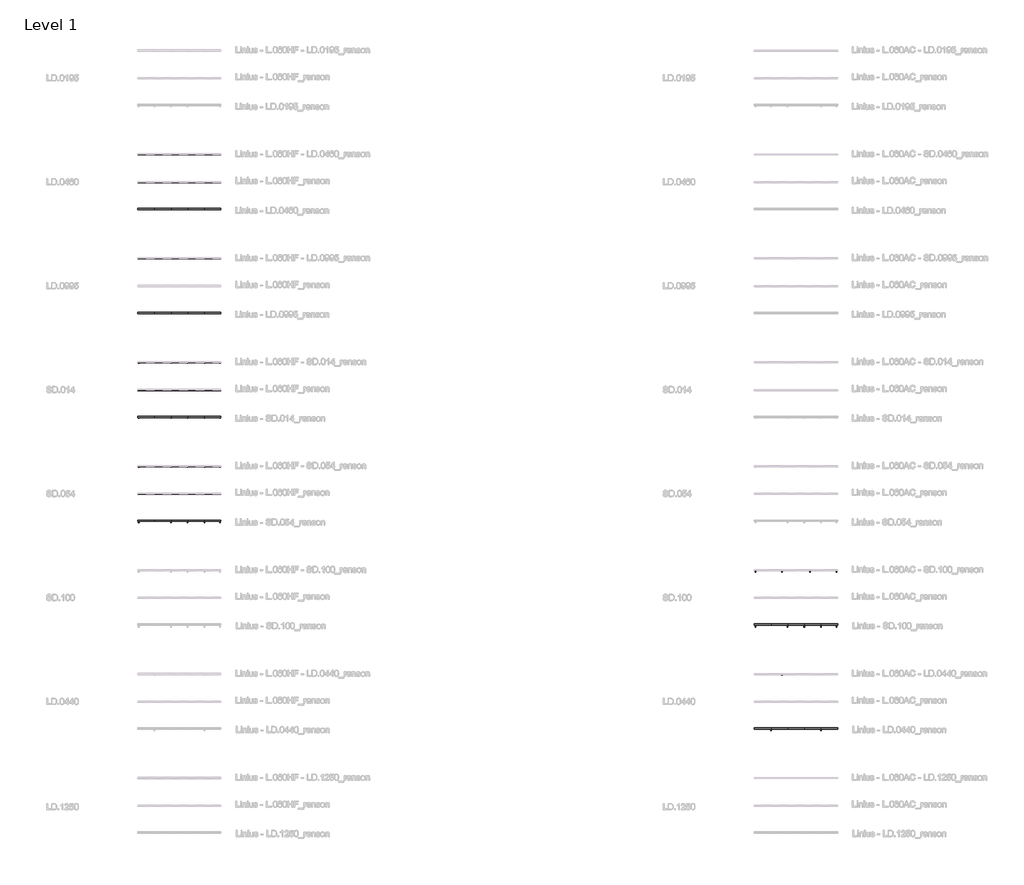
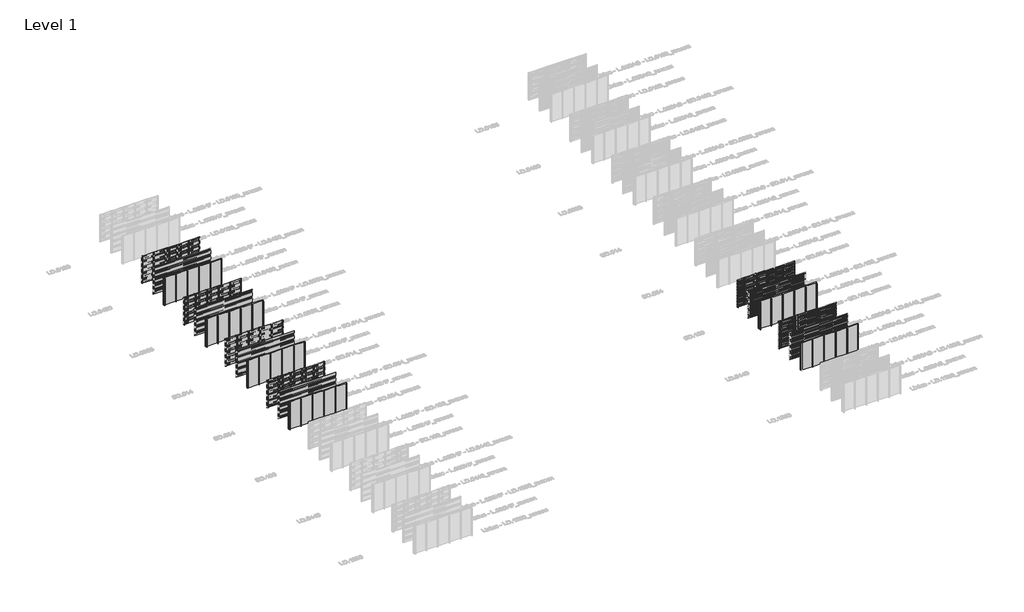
# One storey, part 2 of 153: 66 members, 62 plates.
"""IFC4 building model written with IfcOpenShell, lengths in millimetres."""

from ifc_helpers import new_model, si_unit, origin, origin_with_axes, place, context, project, spatial, polyline, outline, extrude, transform, mapped, element, save
from components import rectangular_mullion_21e3ddae, rectangular_mullion_fb497acc, rectangular_mullion_2c867e25, rectangular_mullion_c2c7736a, rectangular_mullion_35b0a916, rectangular_mullion_bd250e2e, rectangular_mullion_7b49c8f1, rectangular_mullion_5b30f3fd, rectangular_mullion_5e0e8e0a, rectangular_mullion_3facce28, rectangular_mullion_2b84ad7e, rectangular_mullion_0fd695e7, rectangular_mullion_6cf2c509, rectangular_mullion_9b796d85, rectangular_mullion_dfb17e98, rectangular_mullion_8b77bd57, rectangular_mullion_6132f1f1, rectangular_mullion_8f153c19, empty_system_panel_empty_5195cd12

model = new_model("IFC4")

# Units and contexts
model_context = context("Model", 3, world=origin())
ifc_project = project(units=[si_unit("LENGTHUNIT", "METRE", prefix="MILLI")], contexts=[model_context])

# Site, building, storey
site = spatial("IfcSite", under=ifc_project)
building = spatial("IfcBuilding", under=site)
storey = spatial("IfcBuildingStorey", under=building, Name="Level 1", Elevation=0.0)

# Members
placement = place(None, origin())
rectangular_mullion_shape = rectangular_mullion_21e3ddae(model_context)
element("IfcMember", 1, ObjectType="Rectangular Mullion : LD.0460_renson", at=placement, inside=storey, context=model_context, shape_type="MappedRepresentation", body=[
    mapped(rectangular_mullion_shape, transform((5266.6208095, 58981.0540136, 0.0), x_axis=(-1.0, 0.0, 0.0), y_axis=(0.0, 1.0, 0.0), z_axis=(0.0, 0.0, -1.0))),
])
element("IfcMember", 2, ObjectType="Rectangular Mullion : LD.0460_renson", at=placement, inside=storey, context=model_context, shape_type="MappedRepresentation", body=[
    mapped(rectangular_mullion_shape, transform((4066.6208096, 58981.0540136, 0.0), x_axis=(-1.0, 0.0, 0.0), y_axis=(0.0, 1.0, 0.0), z_axis=(0.0, 0.0, -1.0))),
])
element("IfcMember", 3, ObjectType="Rectangular Mullion : LD.0460_renson", at=placement, inside=storey, context=model_context, shape_type="MappedRepresentation", body=[
    mapped(rectangular_mullion_shape, transform((2866.6208097, 58981.0540136, 0.0), x_axis=(-1.0, 0.0, 0.0), y_axis=(0.0, 1.0, 0.0), z_axis=(0.0, 0.0, -1.0))),
])
element("IfcMember", 4, ObjectType="Rectangular Mullion : LD.0460_renson", at=placement, inside=storey, context=model_context, shape_type="MappedRepresentation", body=[
    mapped(rectangular_mullion_shape, transform((1666.6208099, 58981.0540136, 0.0), x_axis=(-1.0, 0.0, 0.0), y_axis=(0.0, 1.0, 0.0), z_axis=(0.0, 0.0, -1.0))),
])
element("IfcMember", 5, ObjectType="Rectangular Mullion : LD.0460_renson", at=placement, inside=storey, context=model_context, shape_type="MappedRepresentation", body=[
    mapped(rectangular_mullion_shape, transform((5266.6208095, 54981.0540136, 0.0), x_axis=(-1.0, 0.0, 0.0), y_axis=(0.0, 1.0, 0.0), z_axis=(0.0, 0.0, -1.0))),
])
element("IfcMember", 6, ObjectType="Rectangular Mullion : LD.0460_renson", at=placement, inside=storey, context=model_context, shape_type="MappedRepresentation", body=[
    mapped(rectangular_mullion_shape, transform((4066.6208096, 54981.0540136, 0.0), x_axis=(-1.0, 0.0, 0.0), y_axis=(0.0, 1.0, 0.0), z_axis=(0.0, 0.0, -1.0))),
])
element("IfcMember", 7, ObjectType="Rectangular Mullion : LD.0460_renson", at=placement, inside=storey, context=model_context, shape_type="MappedRepresentation", body=[
    mapped(rectangular_mullion_shape, transform((2866.6208097, 54981.0540136, 0.0), x_axis=(-1.0, 0.0, 0.0), y_axis=(0.0, 1.0, 0.0), z_axis=(0.0, 0.0, -1.0))),
])
element("IfcMember", 8, ObjectType="Rectangular Mullion : LD.0460_renson", at=placement, inside=storey, context=model_context, shape_type="MappedRepresentation", body=[
    mapped(rectangular_mullion_shape, transform((1666.6208099, 54981.0540136, 0.0), x_axis=(-1.0, 0.0, 0.0), y_axis=(0.0, 1.0, 0.0), z_axis=(0.0, 0.0, -1.0))),
])
rectangular_mullion_2_shape = rectangular_mullion_fb497acc(model_context)
element("IfcMember", 9, ObjectType="Rectangular Mullion : LD.0995_renson", at=placement, inside=storey, context=model_context, shape_type="MappedRepresentation", body=[
    mapped(rectangular_mullion_2_shape, transform((5266.6208095, 51481.0540136, 0.0), x_axis=(-1.0, 0.0, 0.0), y_axis=(0.0, 1.0, 0.0), z_axis=(0.0, 0.0, -1.0))),
])
element("IfcMember", 10, ObjectType="Rectangular Mullion : LD.0995_renson", at=placement, inside=storey, context=model_context, shape_type="MappedRepresentation", body=[
    mapped(rectangular_mullion_2_shape, transform((4066.6208096, 51481.0540136, 0.0), x_axis=(-1.0, 0.0, 0.0), y_axis=(0.0, 1.0, 0.0), z_axis=(0.0, 0.0, -1.0))),
])
element("IfcMember", 11, ObjectType="Rectangular Mullion : LD.0995_renson", at=placement, inside=storey, context=model_context, shape_type="MappedRepresentation", body=[
    mapped(rectangular_mullion_2_shape, transform((2866.6208097, 51481.0540136, 0.0), x_axis=(-1.0, 0.0, 0.0), y_axis=(0.0, 1.0, 0.0), z_axis=(0.0, 0.0, -1.0))),
])
element("IfcMember", 12, ObjectType="Rectangular Mullion : LD.0995_renson", at=placement, inside=storey, context=model_context, shape_type="MappedRepresentation", body=[
    mapped(rectangular_mullion_2_shape, transform((1666.6208099, 51481.0540136, 0.0), x_axis=(-1.0, 0.0, 0.0), y_axis=(0.0, 1.0, 0.0), z_axis=(0.0, 0.0, -1.0))),
])
element("IfcMember", 13, ObjectType="Rectangular Mullion : LD.0995_renson", at=placement, inside=storey, context=model_context, shape_type="MappedRepresentation", body=[
    mapped(rectangular_mullion_2_shape, transform((5266.6208095, 47481.0540136, 0.0), x_axis=(-1.0, 0.0, 0.0), y_axis=(0.0, 1.0, 0.0), z_axis=(0.0, 0.0, -1.0))),
])
element("IfcMember", 14, ObjectType="Rectangular Mullion : LD.0995_renson", at=placement, inside=storey, context=model_context, shape_type="MappedRepresentation", body=[
    mapped(rectangular_mullion_2_shape, transform((4066.6208096, 47481.0540136, 0.0), x_axis=(-1.0, 0.0, 0.0), y_axis=(0.0, 1.0, 0.0), z_axis=(0.0, 0.0, -1.0))),
])
element("IfcMember", 15, ObjectType="Rectangular Mullion : LD.0995_renson", at=placement, inside=storey, context=model_context, shape_type="MappedRepresentation", body=[
    mapped(rectangular_mullion_2_shape, transform((2866.6208097, 47481.0540136, 0.0), x_axis=(-1.0, 0.0, 0.0), y_axis=(0.0, 1.0, 0.0), z_axis=(0.0, 0.0, -1.0))),
])
element("IfcMember", 16, ObjectType="Rectangular Mullion : LD.0995_renson", at=placement, inside=storey, context=model_context, shape_type="MappedRepresentation", body=[
    mapped(rectangular_mullion_2_shape, transform((1666.6208099, 47481.0540136, 0.0), x_axis=(-1.0, 0.0, 0.0), y_axis=(0.0, 1.0, 0.0), z_axis=(0.0, 0.0, -1.0))),
])
rectangular_mullion_3_shape = rectangular_mullion_2c867e25(model_context)
element("IfcMember", 17, ObjectType="Rectangular Mullion : LD.0440_renson", at=placement, inside=storey, context=model_context, shape_type="MappedRepresentation", body=[
    mapped(rectangular_mullion_3_shape, transform((48966.6208096, 21483.0540136, 0.0), x_axis=(-1.0, 0.0, 0.0), y_axis=(0.0, 1.0, 0.0), z_axis=(0.0, 0.0, -1.0))),
])
element("IfcMember", 18, ObjectType="Rectangular Mullion : LD.0440_renson", at=placement, inside=storey, context=model_context, shape_type="MappedRepresentation", body=[
    mapped(rectangular_mullion_3_shape, transform((46966.6208098, 21483.0540136, 0.0), x_axis=(-1.0, 0.0, 0.0), y_axis=(0.0, 1.0, 0.0), z_axis=(0.0, 0.0, -1.0))),
])
element("IfcMember", 19, ObjectType="Rectangular Mullion : LD.0440_renson", at=placement, inside=storey, context=model_context, shape_type="MappedRepresentation", body=[
    mapped(rectangular_mullion_3_shape, transform((47366.6208097, 17483.0540136, 0.0), x_axis=(-1.0, 0.0, 0.0), y_axis=(0.0, 1.0, 0.0), z_axis=(0.0, 0.0, -1.0))),
])
element("IfcMember", 20, ObjectType="Rectangular Mullion : LD.0440_renson", at=placement, inside=storey, context=model_context, shape_type="MappedRepresentation", body=[
    mapped(rectangular_mullion_3_shape, transform((46166.6208099, 17483.0540136, 0.0), x_axis=(-1.0, 0.0, 0.0), y_axis=(0.0, 1.0, 0.0), z_axis=(0.0, 0.0, -1.0))),
])
element("IfcMember", 21, ObjectType="Rectangular Mullion : LD.0440_renson", at=placement, inside=storey, context=model_context, shape_type="MappedRepresentation", body=[
    mapped(rectangular_mullion_3_shape, transform((48566.6208096, 17483.0540136, 0.0), x_axis=(-1.0, 0.0, 0.0), y_axis=(0.0, 1.0, 0.0), z_axis=(0.0, 0.0, -1.0))),
])
element("IfcMember", 22, ObjectType="Rectangular Mullion : LD.0440_renson", at=placement, inside=storey, context=model_context, shape_type="MappedRepresentation", body=[
    mapped(rectangular_mullion_3_shape, transform((49766.6208095, 17483.0540136, 0.0), x_axis=(-1.0, 0.0, 0.0), y_axis=(0.0, 1.0, 0.0), z_axis=(0.0, 0.0, -1.0))),
])
rectangular_mullion_4_shape = rectangular_mullion_c2c7736a(model_context)
element("IfcMember", 23, ObjectType="Rectangular Mullion : LD.0460 - left_renson", at=placement, inside=storey, context=model_context, shape_type="MappedRepresentation", body=[
    mapped(rectangular_mullion_4_shape, transform((466.6208097, 58981.0540136, 0.0), x_axis=(-1.0, 0.0, 0.0), y_axis=(0.0, 1.0, 0.0), z_axis=(0.0, 0.0, -1.0))),
])
element("IfcMember", 24, ObjectType="Rectangular Mullion : LD.0460 - left_renson", at=placement, inside=storey, context=model_context, shape_type="MappedRepresentation", body=[
    mapped(rectangular_mullion_4_shape, transform((466.6208097, 54981.0540136, 0.0), x_axis=(-1.0, 0.0, 0.0), y_axis=(0.0, 1.0, 0.0), z_axis=(0.0, 0.0, -1.0))),
])
rectangular_mullion_5_shape = rectangular_mullion_35b0a916(model_context)
element("IfcMember", 25, ObjectType="Rectangular Mullion : LD.0460 - right_renson", at=placement, inside=storey, context=model_context, shape_type="MappedRepresentation", body=[
    mapped(rectangular_mullion_5_shape, transform((6466.6208097, 54981.0540136, 3000.0), x_axis=(1.0, 0.0, 0.0), y_axis=(0.0, 1.0, 0.0), z_axis=(0.0, 0.0, 1.0))),
])
rectangular_mullion_6_shape = rectangular_mullion_bd250e2e(model_context)
element("IfcMember", 26, ObjectType="Rectangular Mullion : LD.0995 - left_renson", at=placement, inside=storey, context=model_context, shape_type="MappedRepresentation", body=[
    mapped(rectangular_mullion_6_shape, transform((466.6208097, 51481.0540136, 0.0), x_axis=(-1.0, 0.0, 0.0), y_axis=(0.0, 1.0, 0.0), z_axis=(0.0, 0.0, -1.0))),
])
element("IfcMember", 27, ObjectType="Rectangular Mullion : LD.0995 - left_renson", at=placement, inside=storey, context=model_context, shape_type="MappedRepresentation", body=[
    mapped(rectangular_mullion_6_shape, transform((466.6208097, 47481.0540136, 0.0), x_axis=(-1.0, 0.0, 0.0), y_axis=(0.0, 1.0, 0.0), z_axis=(0.0, 0.0, -1.0))),
])
rectangular_mullion_7_shape = rectangular_mullion_7b49c8f1(model_context)
element("IfcMember", 28, ObjectType="Rectangular Mullion : LD.0995 - right_renson", at=placement, inside=storey, context=model_context, shape_type="MappedRepresentation", body=[
    mapped(rectangular_mullion_7_shape, transform((6466.6208097, 51481.0540136, 3000.0), x_axis=(1.0, 0.0, 0.0), y_axis=(0.0, 1.0, 0.0), z_axis=(0.0, 0.0, 1.0))),
])
element("IfcMember", 29, ObjectType="Rectangular Mullion : LD.0995 - right_renson", at=placement, inside=storey, context=model_context, shape_type="MappedRepresentation", body=[
    mapped(rectangular_mullion_7_shape, transform((6466.6208097, 47481.0540136, 3000.0), x_axis=(1.0, 0.0, 0.0), y_axis=(0.0, 1.0, 0.0), z_axis=(0.0, 0.0, 1.0))),
])
rectangular_mullion_8_shape = rectangular_mullion_5b30f3fd(model_context)
element("IfcMember", 30, ObjectType="Rectangular Mullion : LD.0440 - left_renson", at=placement, inside=storey, context=model_context, shape_type="MappedRepresentation", body=[
    mapped(rectangular_mullion_8_shape, transform((44966.6208097, 21483.0540136, 0.0), x_axis=(-1.0, 0.0, 0.0), y_axis=(0.0, 1.0, 0.0), z_axis=(0.0, 0.0, -1.0))),
])
rectangular_mullion_9_shape = rectangular_mullion_5e0e8e0a(model_context)
element("IfcMember", 31, ObjectType="Rectangular Mullion : LD.0440 - right_renson", at=placement, inside=storey, context=model_context, shape_type="MappedRepresentation", body=[
    mapped(rectangular_mullion_9_shape, transform((50966.6208097, 21483.0540136, 3000.0), x_axis=(1.0, 0.0, 0.0), y_axis=(0.0, 1.0, 0.0), z_axis=(0.0, 0.0, 1.0))),
])
element("IfcMember", 32, ObjectType="Rectangular Mullion : LD.0440 - right_renson", at=placement, inside=storey, context=model_context, shape_type="MappedRepresentation", body=[
    mapped(rectangular_mullion_9_shape, transform((50966.6208097, 17483.0540136, 3000.0), x_axis=(1.0, 0.0, 0.0), y_axis=(0.0, 1.0, 0.0), z_axis=(0.0, 0.0, 1.0))),
])
rectangular_mullion_10_shape = rectangular_mullion_3facce28(model_context)
element("IfcMember", 33, ObjectType="Rectangular Mullion : SD.014_renson", at=placement, inside=storey, context=model_context, shape_type="MappedRepresentation", body=[
    mapped(rectangular_mullion_10_shape, transform((5266.6208095, 43981.0540136, 0.0), x_axis=(-1.0, 0.0, 0.0), y_axis=(0.0, 1.0, 0.0), z_axis=(0.0, 0.0, -1.0))),
])
element("IfcMember", 34, ObjectType="Rectangular Mullion : SD.014_renson", at=placement, inside=storey, context=model_context, shape_type="MappedRepresentation", body=[
    mapped(rectangular_mullion_10_shape, transform((4066.6208096, 43981.0540136, 0.0), x_axis=(-1.0, 0.0, 0.0), y_axis=(0.0, 1.0, 0.0), z_axis=(0.0, 0.0, -1.0))),
])
element("IfcMember", 35, ObjectType="Rectangular Mullion : SD.014_renson", at=placement, inside=storey, context=model_context, shape_type="MappedRepresentation", body=[
    mapped(rectangular_mullion_10_shape, transform((2866.6208097, 43981.0540136, 0.0), x_axis=(-1.0, 0.0, 0.0), y_axis=(0.0, 1.0, 0.0), z_axis=(0.0, 0.0, -1.0))),
])
element("IfcMember", 36, ObjectType="Rectangular Mullion : SD.014_renson", at=placement, inside=storey, context=model_context, shape_type="MappedRepresentation", body=[
    mapped(rectangular_mullion_10_shape, transform((1666.6208099, 43981.0540136, 0.0), x_axis=(-1.0, 0.0, 0.0), y_axis=(0.0, 1.0, 0.0), z_axis=(0.0, 0.0, -1.0))),
])
element("IfcMember", 37, ObjectType="Rectangular Mullion : SD.014_renson", at=placement, inside=storey, context=model_context, shape_type="MappedRepresentation", body=[
    mapped(rectangular_mullion_10_shape, transform((5266.6208095, 39981.0540136, 0.0), x_axis=(-1.0, 0.0, 0.0), y_axis=(0.0, 1.0, 0.0), z_axis=(0.0, 0.0, -1.0))),
])
element("IfcMember", 38, ObjectType="Rectangular Mullion : SD.014_renson", at=placement, inside=storey, context=model_context, shape_type="MappedRepresentation", body=[
    mapped(rectangular_mullion_10_shape, transform((4066.6208096, 39981.0540136, 0.0), x_axis=(-1.0, 0.0, 0.0), y_axis=(0.0, 1.0, 0.0), z_axis=(0.0, 0.0, -1.0))),
])
element("IfcMember", 39, ObjectType="Rectangular Mullion : SD.014_renson", at=placement, inside=storey, context=model_context, shape_type="MappedRepresentation", body=[
    mapped(rectangular_mullion_10_shape, transform((2866.6208097, 39981.0540136, 0.0), x_axis=(-1.0, 0.0, 0.0), y_axis=(0.0, 1.0, 0.0), z_axis=(0.0, 0.0, -1.0))),
])
element("IfcMember", 40, ObjectType="Rectangular Mullion : SD.014_renson", at=placement, inside=storey, context=model_context, shape_type="MappedRepresentation", body=[
    mapped(rectangular_mullion_10_shape, transform((1666.6208099, 39981.0540136, 0.0), x_axis=(-1.0, 0.0, 0.0), y_axis=(0.0, 1.0, 0.0), z_axis=(0.0, 0.0, -1.0))),
])
rectangular_mullion_11_shape = rectangular_mullion_2b84ad7e(model_context)
element("IfcMember", 41, ObjectType="Rectangular Mullion : SD.014 - left_renson", at=placement, inside=storey, context=model_context, shape_type="MappedRepresentation", body=[
    mapped(rectangular_mullion_11_shape, transform((466.6208097, 43981.0540136, 0.0), x_axis=(-1.0, 0.0, 0.0), y_axis=(0.0, 1.0, 0.0), z_axis=(0.0, 0.0, -1.0))),
])
element("IfcMember", 42, ObjectType="Rectangular Mullion : SD.014 - left_renson", at=placement, inside=storey, context=model_context, shape_type="MappedRepresentation", body=[
    mapped(rectangular_mullion_11_shape, transform((466.6208097, 39981.0540136, 0.0), x_axis=(-1.0, 0.0, 0.0), y_axis=(0.0, 1.0, 0.0), z_axis=(0.0, 0.0, -1.0))),
])
rectangular_mullion_12_shape = rectangular_mullion_0fd695e7(model_context)
element("IfcMember", 43, ObjectType="Rectangular Mullion : SD.014 - right_renson", at=placement, inside=storey, context=model_context, shape_type="MappedRepresentation", body=[
    mapped(rectangular_mullion_12_shape, transform((6466.6208097, 43981.0540136, 3000.0), x_axis=(1.0, 0.0, 0.0), y_axis=(0.0, 1.0, 0.0), z_axis=(0.0, 0.0, 1.0))),
])
element("IfcMember", 44, ObjectType="Rectangular Mullion : SD.014 - right_renson", at=placement, inside=storey, context=model_context, shape_type="MappedRepresentation", body=[
    mapped(rectangular_mullion_12_shape, transform((6466.6208097, 39981.0540136, 3000.0), x_axis=(1.0, 0.0, 0.0), y_axis=(0.0, 1.0, 0.0), z_axis=(0.0, 0.0, 1.0))),
])
rectangular_mullion_13_shape = rectangular_mullion_6cf2c509(model_context)
element("IfcMember", 45, ObjectType="Rectangular Mullion : SD.054_renson", at=placement, inside=storey, context=model_context, shape_type="MappedRepresentation", body=[
    mapped(rectangular_mullion_13_shape, transform((5266.6208095, 36481.0540136, 0.0), x_axis=(-1.0, 0.0, 0.0), y_axis=(0.0, 1.0, 0.0), z_axis=(0.0, 0.0, -1.0))),
])
element("IfcMember", 46, ObjectType="Rectangular Mullion : SD.054_renson", at=placement, inside=storey, context=model_context, shape_type="MappedRepresentation", body=[
    mapped(rectangular_mullion_13_shape, transform((4066.6208096, 36481.0540136, 0.0), x_axis=(-1.0, 0.0, 0.0), y_axis=(0.0, 1.0, 0.0), z_axis=(0.0, 0.0, -1.0))),
])
element("IfcMember", 47, ObjectType="Rectangular Mullion : SD.054_renson", at=placement, inside=storey, context=model_context, shape_type="MappedRepresentation", body=[
    mapped(rectangular_mullion_13_shape, transform((2866.6208097, 36481.0540136, 0.0), x_axis=(-1.0, 0.0, 0.0), y_axis=(0.0, 1.0, 0.0), z_axis=(0.0, 0.0, -1.0))),
])
element("IfcMember", 48, ObjectType="Rectangular Mullion : SD.054_renson", at=placement, inside=storey, context=model_context, shape_type="MappedRepresentation", body=[
    mapped(rectangular_mullion_13_shape, transform((1666.6208099, 36481.0540136, 0.0), x_axis=(-1.0, 0.0, 0.0), y_axis=(0.0, 1.0, 0.0), z_axis=(0.0, 0.0, -1.0))),
])
element("IfcMember", 49, ObjectType="Rectangular Mullion : SD.054_renson", at=placement, inside=storey, context=model_context, shape_type="MappedRepresentation", body=[
    mapped(rectangular_mullion_13_shape, transform((5266.6208095, 32481.0540136, 0.0), x_axis=(-1.0, 0.0, 0.0), y_axis=(0.0, 1.0, 0.0), z_axis=(0.0, 0.0, -1.0))),
])
element("IfcMember", 50, ObjectType="Rectangular Mullion : SD.054_renson", at=placement, inside=storey, context=model_context, shape_type="MappedRepresentation", body=[
    mapped(rectangular_mullion_13_shape, transform((4066.6208096, 32481.0540136, 0.0), x_axis=(-1.0, 0.0, 0.0), y_axis=(0.0, 1.0, 0.0), z_axis=(0.0, 0.0, -1.0))),
])
element("IfcMember", 51, ObjectType="Rectangular Mullion : SD.054_renson", at=placement, inside=storey, context=model_context, shape_type="MappedRepresentation", body=[
    mapped(rectangular_mullion_13_shape, transform((2866.6208097, 32481.0540136, 0.0), x_axis=(-1.0, 0.0, 0.0), y_axis=(0.0, 1.0, 0.0), z_axis=(0.0, 0.0, -1.0))),
])
element("IfcMember", 52, ObjectType="Rectangular Mullion : SD.054_renson", at=placement, inside=storey, context=model_context, shape_type="MappedRepresentation", body=[
    mapped(rectangular_mullion_13_shape, transform((1666.6208099, 32481.0540136, 0.0), x_axis=(-1.0, 0.0, 0.0), y_axis=(0.0, 1.0, 0.0), z_axis=(0.0, 0.0, -1.0))),
])
rectangular_mullion_14_shape = rectangular_mullion_9b796d85(model_context)
element("IfcMember", 53, ObjectType="Rectangular Mullion : SD.054 - left_renson", at=placement, inside=storey, context=model_context, shape_type="MappedRepresentation", body=[
    mapped(rectangular_mullion_14_shape, transform((466.6208097, 36481.0540136, 0.0), x_axis=(-1.0, 0.0, 0.0), y_axis=(0.0, 1.0, 0.0), z_axis=(0.0, 0.0, -1.0))),
])
element("IfcMember", 54, ObjectType="Rectangular Mullion : SD.054 - left_renson", at=placement, inside=storey, context=model_context, shape_type="MappedRepresentation", body=[
    mapped(rectangular_mullion_14_shape, transform((466.6208097, 32481.0540136, 0.0), x_axis=(-1.0, 0.0, 0.0), y_axis=(0.0, 1.0, 0.0), z_axis=(0.0, 0.0, -1.0))),
])
rectangular_mullion_15_shape = rectangular_mullion_dfb17e98(model_context)
element("IfcMember", 55, ObjectType="Rectangular Mullion : SD.054 - right_renson", at=placement, inside=storey, context=model_context, shape_type="MappedRepresentation", body=[
    mapped(rectangular_mullion_15_shape, transform((6466.6208097, 36481.0540136, 3000.0), x_axis=(1.0, 0.0, 0.0), y_axis=(0.0, 1.0, 0.0), z_axis=(0.0, 0.0, 1.0))),
])
element("IfcMember", 56, ObjectType="Rectangular Mullion : SD.054 - right_renson", at=placement, inside=storey, context=model_context, shape_type="MappedRepresentation", body=[
    mapped(rectangular_mullion_15_shape, transform((6466.6208097, 32481.0540136, 3000.0), x_axis=(1.0, 0.0, 0.0), y_axis=(0.0, 1.0, 0.0), z_axis=(0.0, 0.0, 1.0))),
])
rectangular_mullion_16_shape = rectangular_mullion_8b77bd57(model_context)
element("IfcMember", 57, ObjectType="Rectangular Mullion : SD.100_renson", at=placement, inside=storey, context=model_context, shape_type="MappedRepresentation", body=[
    mapped(rectangular_mullion_16_shape, transform((48966.6208096, 28983.0540136, 0.0), x_axis=(-1.0, 0.0, 0.0), y_axis=(0.0, 1.0, 0.0), z_axis=(0.0, 0.0, -1.0))),
])
element("IfcMember", 58, ObjectType="Rectangular Mullion : SD.100_renson", at=placement, inside=storey, context=model_context, shape_type="MappedRepresentation", body=[
    mapped(rectangular_mullion_16_shape, transform((46966.6208098, 28983.0540136, 0.0), x_axis=(-1.0, 0.0, 0.0), y_axis=(0.0, 1.0, 0.0), z_axis=(0.0, 0.0, -1.0))),
])
element("IfcMember", 59, ObjectType="Rectangular Mullion : SD.100_renson", at=placement, inside=storey, context=model_context, shape_type="MappedRepresentation", body=[
    mapped(rectangular_mullion_16_shape, transform((47366.6208097, 24983.0540136, 0.0), x_axis=(-1.0, 0.0, 0.0), y_axis=(0.0, 1.0, 0.0), z_axis=(0.0, 0.0, -1.0))),
])
element("IfcMember", 60, ObjectType="Rectangular Mullion : SD.100_renson", at=placement, inside=storey, context=model_context, shape_type="MappedRepresentation", body=[
    mapped(rectangular_mullion_16_shape, transform((46166.6208099, 24983.0540136, 0.0), x_axis=(-1.0, 0.0, 0.0), y_axis=(0.0, 1.0, 0.0), z_axis=(0.0, 0.0, -1.0))),
])
element("IfcMember", 61, ObjectType="Rectangular Mullion : SD.100_renson", at=placement, inside=storey, context=model_context, shape_type="MappedRepresentation", body=[
    mapped(rectangular_mullion_16_shape, transform((48566.6208096, 24983.0540136, 0.0), x_axis=(-1.0, 0.0, 0.0), y_axis=(0.0, 1.0, 0.0), z_axis=(0.0, 0.0, -1.0))),
])
element("IfcMember", 62, ObjectType="Rectangular Mullion : SD.100_renson", at=placement, inside=storey, context=model_context, shape_type="MappedRepresentation", body=[
    mapped(rectangular_mullion_16_shape, transform((49766.6208095, 24983.0540136, 0.0), x_axis=(-1.0, 0.0, 0.0), y_axis=(0.0, 1.0, 0.0), z_axis=(0.0, 0.0, -1.0))),
])
rectangular_mullion_17_shape = rectangular_mullion_6132f1f1(model_context)
element("IfcMember", 63, ObjectType="Rectangular Mullion : SD.100 - left_renson", at=placement, inside=storey, context=model_context, shape_type="MappedRepresentation", body=[
    mapped(rectangular_mullion_17_shape, transform((44966.6208097, 28983.0540136, 0.0), x_axis=(-1.0, 0.0, 0.0), y_axis=(0.0, 1.0, 0.0), z_axis=(0.0, 0.0, -1.0))),
])
element("IfcMember", 64, ObjectType="Rectangular Mullion : SD.100 - left_renson", at=placement, inside=storey, context=model_context, shape_type="MappedRepresentation", body=[
    mapped(rectangular_mullion_17_shape, transform((44966.6208097, 24983.0540136, 0.0), x_axis=(-1.0, 0.0, 0.0), y_axis=(0.0, 1.0, 0.0), z_axis=(0.0, 0.0, -1.0))),
])
rectangular_mullion_18_shape = rectangular_mullion_8f153c19(model_context)
element("IfcMember", 65, ObjectType="Rectangular Mullion : SD.100 - right_renson", at=placement, inside=storey, context=model_context, shape_type="MappedRepresentation", body=[
    mapped(rectangular_mullion_18_shape, transform((50966.6208097, 28983.0540136, 3000.0), x_axis=(1.0, 0.0, 0.0), y_axis=(0.0, 1.0, 0.0), z_axis=(0.0, 0.0, 1.0))),
])
element("IfcMember", 66, ObjectType="Rectangular Mullion : SD.100 - right_renson", at=placement, inside=storey, context=model_context, shape_type="MappedRepresentation", body=[
    mapped(rectangular_mullion_18_shape, transform((50966.6208097, 24983.0540136, 3000.0), x_axis=(1.0, 0.0, 0.0), y_axis=(0.0, 1.0, 0.0), z_axis=(0.0, 0.0, 1.0))),
])

# Plates
element("IfcPlate", 67, ObjectType="Linius - L.060HF_renson", at=placement, inside=storey, context=model_context, shape_type="SweptSolid", body=[
    extrude(outline(polyline([(466.6208097, 58982.0540136), (1666.6208099, 58982.0540136), (1666.6208099, 58980.0540136), (466.6208097, 58980.0540136), (466.6208097, 58982.0540136)])), origin_with_axes(), (0.0, 0.0, 1.0), 3000.0),
])
element("IfcPlate", 68, ObjectType="Linius - L.060HF_renson", at=placement, inside=storey, context=model_context, shape_type="SweptSolid", body=[
    extrude(outline(polyline([(1666.6208099, 58982.0540136), (2866.6208097, 58982.0540136), (2866.6208097, 58980.0540136), (1666.6208099, 58980.0540136), (1666.6208099, 58982.0540136)])), origin_with_axes(), (0.0, 0.0, 1.0), 3000.0),
])
element("IfcPlate", 69, ObjectType="Linius - L.060HF_renson", at=placement, inside=storey, context=model_context, shape_type="SweptSolid", body=[
    extrude(outline(polyline([(2866.6208097, 58982.0540136), (4066.6208096, 58982.0540136), (4066.6208096, 58980.0540136), (2866.6208097, 58980.0540136), (2866.6208097, 58982.0540136)])), origin_with_axes(), (0.0, 0.0, 1.0), 3000.0),
])
element("IfcPlate", 70, ObjectType="Linius - L.060HF_renson", at=placement, inside=storey, context=model_context, shape_type="SweptSolid", body=[
    extrude(outline(polyline([(4066.6208096, 58982.0540136), (5266.6208095, 58982.0540136), (5266.6208095, 58980.0540136), (4066.6208096, 58980.0540136), (4066.6208096, 58982.0540136)])), origin_with_axes(), (0.0, 0.0, 1.0), 3000.0),
])
element("IfcPlate", 71, ObjectType="Linius - L.060HF_renson", at=placement, inside=storey, context=model_context, shape_type="SweptSolid", body=[
    extrude(outline(polyline([(466.6208097, 56982.0540136), (6466.6208097, 56982.0540136), (6466.6208097, 56980.0540136), (466.6208097, 56980.0540136), (466.6208097, 56982.0540136)])), origin_with_axes(), (0.0, 0.0, 1.0), 3000.0),
])
element("IfcPlate", 72, ObjectType="Linius - L.060HF_renson", at=placement, inside=storey, context=model_context, shape_type="SweptSolid", body=[
    extrude(outline(polyline([(466.6208097, 51482.0540136), (1666.6208099, 51482.0540136), (1666.6208099, 51480.0540136), (466.6208097, 51480.0540136), (466.6208097, 51482.0540136)])), origin_with_axes(), (0.0, 0.0, 1.0), 3000.0),
])
element("IfcPlate", 73, ObjectType="Linius - L.060HF_renson", at=placement, inside=storey, context=model_context, shape_type="SweptSolid", body=[
    extrude(outline(polyline([(1666.6208099, 51482.0540136), (2866.6208097, 51482.0540136), (2866.6208097, 51480.0540136), (1666.6208099, 51480.0540136), (1666.6208099, 51482.0540136)])), origin_with_axes(), (0.0, 0.0, 1.0), 3000.0),
])
element("IfcPlate", 74, ObjectType="Linius - L.060HF_renson", at=placement, inside=storey, context=model_context, shape_type="SweptSolid", body=[
    extrude(outline(polyline([(2866.6208097, 51482.0540136), (4066.6208096, 51482.0540136), (4066.6208096, 51480.0540136), (2866.6208097, 51480.0540136), (2866.6208097, 51482.0540136)])), origin_with_axes(), (0.0, 0.0, 1.0), 3000.0),
])
element("IfcPlate", 75, ObjectType="Linius - L.060HF_renson", at=placement, inside=storey, context=model_context, shape_type="SweptSolid", body=[
    extrude(outline(polyline([(4066.6208096, 51482.0540136), (5266.6208095, 51482.0540136), (5266.6208095, 51480.0540136), (4066.6208096, 51480.0540136), (4066.6208096, 51482.0540136)])), origin_with_axes(), (0.0, 0.0, 1.0), 3000.0),
])
element("IfcPlate", 76, ObjectType="Linius - L.060HF_renson", at=placement, inside=storey, context=model_context, shape_type="SweptSolid", body=[
    extrude(outline(polyline([(466.6208097, 49482.0540136), (6466.6208097, 49482.0540136), (6466.6208097, 49480.0540136), (466.6208097, 49480.0540136), (466.6208097, 49482.0540136)])), origin_with_axes(), (0.0, 0.0, 1.0), 3000.0),
])
element("IfcPlate", 77, ObjectType="Linius - L.060HF_renson", at=placement, inside=storey, context=model_context, shape_type="SweptSolid", body=[
    extrude(outline(polyline([(466.6208097, 43982.0540136), (1666.6208099, 43982.0540136), (1666.6208099, 43980.0540136), (466.6208097, 43980.0540136), (466.6208097, 43982.0540136)])), origin_with_axes(), (0.0, 0.0, 1.0), 3000.0),
])
element("IfcPlate", 78, ObjectType="Linius - L.060HF_renson", at=placement, inside=storey, context=model_context, shape_type="SweptSolid", body=[
    extrude(outline(polyline([(1666.6208099, 43982.0540136), (2866.6208097, 43982.0540136), (2866.6208097, 43980.0540136), (1666.6208099, 43980.0540136), (1666.6208099, 43982.0540136)])), origin_with_axes(), (0.0, 0.0, 1.0), 3000.0),
])
element("IfcPlate", 79, ObjectType="Linius - L.060HF_renson", at=placement, inside=storey, context=model_context, shape_type="SweptSolid", body=[
    extrude(outline(polyline([(2866.6208097, 43982.0540136), (4066.6208096, 43982.0540136), (4066.6208096, 43980.0540136), (2866.6208097, 43980.0540136), (2866.6208097, 43982.0540136)])), origin_with_axes(), (0.0, 0.0, 1.0), 3000.0),
])
element("IfcPlate", 80, ObjectType="Linius - L.060HF_renson", at=placement, inside=storey, context=model_context, shape_type="SweptSolid", body=[
    extrude(outline(polyline([(4066.6208096, 43982.0540136), (5266.6208095, 43982.0540136), (5266.6208095, 43980.0540136), (4066.6208096, 43980.0540136), (4066.6208096, 43982.0540136)])), origin_with_axes(), (0.0, 0.0, 1.0), 3000.0),
])
element("IfcPlate", 81, ObjectType="Linius - L.060HF_renson", at=placement, inside=storey, context=model_context, shape_type="SweptSolid", body=[
    extrude(outline(polyline([(466.6208097, 41982.0540136), (6466.6208097, 41982.0540136), (6466.6208097, 41980.0540136), (466.6208097, 41980.0540136), (466.6208097, 41982.0540136)])), origin_with_axes(), (0.0, 0.0, 1.0), 3000.0),
])
element("IfcPlate", 82, ObjectType="Linius - L.060HF_renson", at=placement, inside=storey, context=model_context, shape_type="SweptSolid", body=[
    extrude(outline(polyline([(466.6208097, 36482.0540136), (1666.6208099, 36482.0540136), (1666.6208099, 36480.0540136), (466.6208097, 36480.0540136), (466.6208097, 36482.0540136)])), origin_with_axes(), (0.0, 0.0, 1.0), 3000.0),
])
element("IfcPlate", 83, ObjectType="Linius - L.060HF_renson", at=placement, inside=storey, context=model_context, shape_type="SweptSolid", body=[
    extrude(outline(polyline([(1666.6208099, 36482.0540136), (2866.6208097, 36482.0540136), (2866.6208097, 36480.0540136), (1666.6208099, 36480.0540136), (1666.6208099, 36482.0540136)])), origin_with_axes(), (0.0, 0.0, 1.0), 3000.0),
])
element("IfcPlate", 84, ObjectType="Linius - L.060HF_renson", at=placement, inside=storey, context=model_context, shape_type="SweptSolid", body=[
    extrude(outline(polyline([(2866.6208097, 36482.0540136), (4066.6208096, 36482.0540136), (4066.6208096, 36480.0540136), (2866.6208097, 36480.0540136), (2866.6208097, 36482.0540136)])), origin_with_axes(), (0.0, 0.0, 1.0), 3000.0),
])
element("IfcPlate", 85, ObjectType="Linius - L.060HF_renson", at=placement, inside=storey, context=model_context, shape_type="SweptSolid", body=[
    extrude(outline(polyline([(4066.6208096, 36482.0540136), (5266.6208095, 36482.0540136), (5266.6208095, 36480.0540136), (4066.6208096, 36480.0540136), (4066.6208096, 36482.0540136)])), origin_with_axes(), (0.0, 0.0, 1.0), 3000.0),
])
element("IfcPlate", 86, ObjectType="Linius - L.060HF_renson", at=placement, inside=storey, context=model_context, shape_type="SweptSolid", body=[
    extrude(outline(polyline([(466.6208097, 34482.0540136), (6466.6208097, 34482.0540136), (6466.6208097, 34480.0540136), (466.6208097, 34480.0540136), (466.6208097, 34482.0540136)])), origin_with_axes(), (0.0, 0.0, 1.0), 3000.0),
])
element("IfcPlate", 87, ObjectType="Linius - L.060HF_renson", at=placement, inside=storey, context=model_context, shape_type="SweptSolid", body=[
    extrude(outline(polyline([(5266.6208095, 58982.0540136), (6466.6208097, 58982.0540136), (6466.6208097, 58980.0540136), (5266.6208095, 58980.0540136), (5266.6208095, 58982.0540136)])), origin_with_axes(), (0.0, 0.0, 1.0), 3000.0),
])
element("IfcPlate", 88, ObjectType="Linius - L.060HF_renson", at=placement, inside=storey, context=model_context, shape_type="SweptSolid", body=[
    extrude(outline(polyline([(5266.6208095, 51482.0540136), (6466.6208097, 51482.0540136), (6466.6208097, 51480.0540136), (5266.6208095, 51480.0540136), (5266.6208095, 51482.0540136)])), origin_with_axes(), (0.0, 0.0, 1.0), 3000.0),
])
element("IfcPlate", 89, ObjectType="Linius - L.060HF_renson", at=placement, inside=storey, context=model_context, shape_type="SweptSolid", body=[
    extrude(outline(polyline([(5266.6208095, 43982.0540136), (6466.6208097, 43982.0540136), (6466.6208097, 43980.0540136), (5266.6208095, 43980.0540136), (5266.6208095, 43982.0540136)])), origin_with_axes(), (0.0, 0.0, 1.0), 3000.0),
])
element("IfcPlate", 90, ObjectType="Linius - L.060HF_renson", at=placement, inside=storey, context=model_context, shape_type="SweptSolid", body=[
    extrude(outline(polyline([(5266.6208095, 36482.0540136), (6466.6208097, 36482.0540136), (6466.6208097, 36480.0540136), (5266.6208095, 36480.0540136), (5266.6208095, 36482.0540136)])), origin_with_axes(), (0.0, 0.0, 1.0), 3000.0),
])
element("IfcPlate", 91, ObjectType="Linius - L.060AC_renson", at=placement, inside=storey, context=model_context, shape_type="SweptSolid", body=[
    extrude(outline(polyline([(44966.6208097, 28984.0540136), (46966.6208098, 28984.0540136), (46966.6208098, 28982.0540136), (44966.6208097, 28982.0540136), (44966.6208097, 28984.0540136)])), origin_with_axes(), (0.0, 0.0, 1.0), 3000.0),
])
element("IfcPlate", 92, ObjectType="Linius - L.060AC_renson", at=placement, inside=storey, context=model_context, shape_type="SweptSolid", body=[
    extrude(outline(polyline([(46966.6208098, 28984.0540136), (48966.6208096, 28984.0540136), (48966.6208096, 28982.0540136), (46966.6208098, 28982.0540136), (46966.6208098, 28984.0540136)])), origin_with_axes(), (0.0, 0.0, 1.0), 3000.0),
])
element("IfcPlate", 93, ObjectType="Linius - L.060AC_renson", at=placement, inside=storey, context=model_context, shape_type="SweptSolid", body=[
    extrude(outline(polyline([(44966.6208097, 26984.0540136), (50966.6208097, 26984.0540136), (50966.6208097, 26982.0540136), (44966.6208097, 26982.0540136), (44966.6208097, 26984.0540136)])), origin_with_axes(), (0.0, 0.0, 1.0), 3000.0),
])
element("IfcPlate", 94, ObjectType="Linius - L.060AC_renson", at=placement, inside=storey, context=model_context, shape_type="SweptSolid", body=[
    extrude(outline(polyline([(44966.6208097, 21484.0540136), (46966.6208098, 21484.0540136), (46966.6208098, 21482.0540136), (44966.6208097, 21482.0540136), (44966.6208097, 21484.0540136)])), origin_with_axes(), (0.0, 0.0, 1.0), 3000.0),
])
element("IfcPlate", 95, ObjectType="Linius - L.060AC_renson", at=placement, inside=storey, context=model_context, shape_type="SweptSolid", body=[
    extrude(outline(polyline([(46966.6208098, 21484.0540136), (48966.6208096, 21484.0540136), (48966.6208096, 21482.0540136), (46966.6208098, 21482.0540136), (46966.6208098, 21484.0540136)])), origin_with_axes(), (0.0, 0.0, 1.0), 3000.0),
])
element("IfcPlate", 96, ObjectType="Linius - L.060AC_renson", at=placement, inside=storey, context=model_context, shape_type="SweptSolid", body=[
    extrude(outline(polyline([(44966.6208097, 19484.0540136), (50966.6208097, 19484.0540136), (50966.6208097, 19482.0540136), (44966.6208097, 19482.0540136), (44966.6208097, 19484.0540136)])), origin_with_axes(), (0.0, 0.0, 1.0), 3000.0),
])
element("IfcPlate", 97, ObjectType="Linius - L.060AC_renson", at=placement, inside=storey, context=model_context, shape_type="SweptSolid", body=[
    extrude(outline(polyline([(48966.6208096, 21484.0540136), (50966.6208097, 21484.0540136), (50966.6208097, 21482.0540136), (48966.6208096, 21482.0540136), (48966.6208096, 21484.0540136)])), origin_with_axes(), (0.0, 0.0, 1.0), 3000.0),
])
element("IfcPlate", 98, ObjectType="Linius - L.060AC_renson", at=placement, inside=storey, context=model_context, shape_type="SweptSolid", body=[
    extrude(outline(polyline([(48966.6208096, 28984.0540136), (50966.6208097, 28984.0540136), (50966.6208097, 28982.0540136), (48966.6208096, 28982.0540136), (48966.6208096, 28984.0540136)])), origin_with_axes(), (0.0, 0.0, 1.0), 3000.0),
])
empty_system_panel_empty_shape = empty_system_panel_empty_5195cd12(model_context)
element("IfcPlate", 99, ObjectType="Empty System Panel : Empty", at=placement, inside=storey, context=model_context, shape_type="MappedRepresentation", body=[
    mapped(empty_system_panel_empty_shape, transform((5866.6208096, 54981.0540136, 0.0), x_axis=(-1.0, 0.0, 0.0), y_axis=(0.0, -1.0, 0.0), z_axis=(0.0, 0.0, 1.0))),
])
element("IfcPlate", 100, ObjectType="Empty System Panel : Empty", at=placement, inside=storey, context=model_context, shape_type="MappedRepresentation", body=[
    mapped(empty_system_panel_empty_shape, transform((5866.6208096, 47481.0540136, 0.0), x_axis=(-1.0, 0.0, 0.0), y_axis=(0.0, -1.0, 0.0), z_axis=(0.0, 0.0, 1.0))),
])
element("IfcPlate", 101, ObjectType="Empty System Panel : Empty", at=placement, inside=storey, context=model_context, shape_type="MappedRepresentation", body=[
    mapped(empty_system_panel_empty_shape, transform((5866.6208096, 39981.0540136, 0.0), x_axis=(-1.0, 0.0, 0.0), y_axis=(0.0, -1.0, 0.0), z_axis=(0.0, 0.0, 1.0))),
])
element("IfcPlate", 102, ObjectType="Empty System Panel : Empty", at=placement, inside=storey, context=model_context, shape_type="MappedRepresentation", body=[
    mapped(empty_system_panel_empty_shape, transform((5866.6208096, 32481.0540136, 0.0), x_axis=(-1.0, 0.0, 0.0), y_axis=(0.0, -1.0, 0.0), z_axis=(0.0, 0.0, 1.0))),
])
element("IfcPlate", 103, ObjectType="Empty System Panel : Empty", at=placement, inside=storey, context=model_context, shape_type="MappedRepresentation", body=[
    mapped(empty_system_panel_empty_shape, transform((4666.6208096, 54981.0540136, 0.0), x_axis=(-1.0, 0.0, 0.0), y_axis=(0.0, -1.0, 0.0), z_axis=(0.0, 0.0, 1.0))),
])
element("IfcPlate", 104, ObjectType="Empty System Panel : Empty", at=placement, inside=storey, context=model_context, shape_type="MappedRepresentation", body=[
    mapped(empty_system_panel_empty_shape, transform((3466.6208097, 54981.0540136, 0.0), x_axis=(-1.0, 0.0, 0.0), y_axis=(0.0, -1.0, 0.0), z_axis=(0.0, 0.0, 1.0))),
])
element("IfcPlate", 105, ObjectType="Empty System Panel : Empty", at=placement, inside=storey, context=model_context, shape_type="MappedRepresentation", body=[
    mapped(empty_system_panel_empty_shape, transform((2266.6208098, 54981.0540136, 0.0), x_axis=(-1.0, 0.0, 0.0), y_axis=(0.0, -1.0, 0.0), z_axis=(0.0, 0.0, 1.0))),
])
element("IfcPlate", 106, ObjectType="Empty System Panel : Empty", at=placement, inside=storey, context=model_context, shape_type="MappedRepresentation", body=[
    mapped(empty_system_panel_empty_shape, transform((1066.6208098, 54981.0540136, 0.0), x_axis=(-1.0, 0.0, 0.0), y_axis=(0.0, -1.0, 0.0), z_axis=(0.0, 0.0, 1.0))),
])
element("IfcPlate", 107, ObjectType="Empty System Panel : Empty", at=placement, inside=storey, context=model_context, shape_type="MappedRepresentation", body=[
    mapped(empty_system_panel_empty_shape, transform((4666.6208096, 47481.0540136, 0.0), x_axis=(-1.0, 0.0, 0.0), y_axis=(0.0, -1.0, 0.0), z_axis=(0.0, 0.0, 1.0))),
])
element("IfcPlate", 108, ObjectType="Empty System Panel : Empty", at=placement, inside=storey, context=model_context, shape_type="MappedRepresentation", body=[
    mapped(empty_system_panel_empty_shape, transform((3466.6208097, 47481.0540136, 0.0), x_axis=(-1.0, 0.0, 0.0), y_axis=(0.0, -1.0, 0.0), z_axis=(0.0, 0.0, 1.0))),
])
element("IfcPlate", 109, ObjectType="Empty System Panel : Empty", at=placement, inside=storey, context=model_context, shape_type="MappedRepresentation", body=[
    mapped(empty_system_panel_empty_shape, transform((2266.6208098, 47481.0540136, 0.0), x_axis=(-1.0, 0.0, 0.0), y_axis=(0.0, -1.0, 0.0), z_axis=(0.0, 0.0, 1.0))),
])
element("IfcPlate", 110, ObjectType="Empty System Panel : Empty", at=placement, inside=storey, context=model_context, shape_type="MappedRepresentation", body=[
    mapped(empty_system_panel_empty_shape, transform((1066.6208098, 47481.0540136, 0.0), x_axis=(-1.0, 0.0, 0.0), y_axis=(0.0, -1.0, 0.0), z_axis=(0.0, 0.0, 1.0))),
])
element("IfcPlate", 111, ObjectType="Empty System Panel : Empty", at=placement, inside=storey, context=model_context, shape_type="MappedRepresentation", body=[
    mapped(empty_system_panel_empty_shape, transform((4666.6208096, 39981.0540136, 0.0), x_axis=(-1.0, 0.0, 0.0), y_axis=(0.0, -1.0, 0.0), z_axis=(0.0, 0.0, 1.0))),
])
element("IfcPlate", 112, ObjectType="Empty System Panel : Empty", at=placement, inside=storey, context=model_context, shape_type="MappedRepresentation", body=[
    mapped(empty_system_panel_empty_shape, transform((3466.6208097, 39981.0540136, 0.0), x_axis=(-1.0, 0.0, 0.0), y_axis=(0.0, -1.0, 0.0), z_axis=(0.0, 0.0, 1.0))),
])
element("IfcPlate", 113, ObjectType="Empty System Panel : Empty", at=placement, inside=storey, context=model_context, shape_type="MappedRepresentation", body=[
    mapped(empty_system_panel_empty_shape, transform((2266.6208098, 39981.0540136, 0.0), x_axis=(-1.0, 0.0, 0.0), y_axis=(0.0, -1.0, 0.0), z_axis=(0.0, 0.0, 1.0))),
])
element("IfcPlate", 114, ObjectType="Empty System Panel : Empty", at=placement, inside=storey, context=model_context, shape_type="MappedRepresentation", body=[
    mapped(empty_system_panel_empty_shape, transform((1066.6208098, 39981.0540136, 0.0), x_axis=(-1.0, 0.0, 0.0), y_axis=(0.0, -1.0, 0.0), z_axis=(0.0, 0.0, 1.0))),
])
element("IfcPlate", 115, ObjectType="Empty System Panel : Empty", at=placement, inside=storey, context=model_context, shape_type="MappedRepresentation", body=[
    mapped(empty_system_panel_empty_shape, transform((4666.6208096, 32481.0540136, 0.0), x_axis=(-1.0, 0.0, 0.0), y_axis=(0.0, -1.0, 0.0), z_axis=(0.0, 0.0, 1.0))),
])
element("IfcPlate", 116, ObjectType="Empty System Panel : Empty", at=placement, inside=storey, context=model_context, shape_type="MappedRepresentation", body=[
    mapped(empty_system_panel_empty_shape, transform((3466.6208097, 32481.0540136, 0.0), x_axis=(-1.0, 0.0, 0.0), y_axis=(0.0, -1.0, 0.0), z_axis=(0.0, 0.0, 1.0))),
])
element("IfcPlate", 117, ObjectType="Empty System Panel : Empty", at=placement, inside=storey, context=model_context, shape_type="MappedRepresentation", body=[
    mapped(empty_system_panel_empty_shape, transform((2266.6208098, 32481.0540136, 0.0), x_axis=(-1.0, 0.0, 0.0), y_axis=(0.0, -1.0, 0.0), z_axis=(0.0, 0.0, 1.0))),
])
element("IfcPlate", 118, ObjectType="Empty System Panel : Empty", at=placement, inside=storey, context=model_context, shape_type="MappedRepresentation", body=[
    mapped(empty_system_panel_empty_shape, transform((1066.6208098, 32481.0540136, 0.0), x_axis=(-1.0, 0.0, 0.0), y_axis=(0.0, -1.0, 0.0), z_axis=(0.0, 0.0, 1.0))),
])
element("IfcPlate", 119, ObjectType="Empty System Panel : Empty", at=placement, inside=storey, context=model_context, shape_type="MappedRepresentation", body=[
    mapped(empty_system_panel_empty_shape, transform((50366.6208096, 24983.0540136, 0.0), x_axis=(-1.0, 0.0, 0.0), y_axis=(0.0, -1.0, 0.0), z_axis=(0.0, 0.0, 1.0))),
])
element("IfcPlate", 120, ObjectType="Empty System Panel : Empty", at=placement, inside=storey, context=model_context, shape_type="MappedRepresentation", body=[
    mapped(empty_system_panel_empty_shape, transform((50366.6208096, 17483.0540136, 0.0), x_axis=(-1.0, 0.0, 0.0), y_axis=(0.0, -1.0, 0.0), z_axis=(0.0, 0.0, 1.0))),
])
element("IfcPlate", 121, ObjectType="Empty System Panel : Empty", at=placement, inside=storey, context=model_context, shape_type="MappedRepresentation", body=[
    mapped(empty_system_panel_empty_shape, transform((46766.6208098, 24983.0540136, 0.0), x_axis=(-1.0, 0.0, 0.0), y_axis=(0.0, -1.0, 0.0), z_axis=(0.0, 0.0, 1.0))),
])
element("IfcPlate", 122, ObjectType="Empty System Panel : Empty", at=placement, inside=storey, context=model_context, shape_type="MappedRepresentation", body=[
    mapped(empty_system_panel_empty_shape, transform((45566.6208098, 24983.0540136, 0.0), x_axis=(-1.0, 0.0, 0.0), y_axis=(0.0, -1.0, 0.0), z_axis=(0.0, 0.0, 1.0))),
])
element("IfcPlate", 123, ObjectType="Empty System Panel : Empty", at=placement, inside=storey, context=model_context, shape_type="MappedRepresentation", body=[
    mapped(empty_system_panel_empty_shape, transform((46766.6208098, 17483.0540136, 0.0), x_axis=(-1.0, 0.0, 0.0), y_axis=(0.0, -1.0, 0.0), z_axis=(0.0, 0.0, 1.0))),
])
element("IfcPlate", 124, ObjectType="Empty System Panel : Empty", at=placement, inside=storey, context=model_context, shape_type="MappedRepresentation", body=[
    mapped(empty_system_panel_empty_shape, transform((45566.6208098, 17483.0540136, 0.0), x_axis=(-1.0, 0.0, 0.0), y_axis=(0.0, -1.0, 0.0), z_axis=(0.0, 0.0, 1.0))),
])
element("IfcPlate", 125, ObjectType="Empty System Panel : Empty", at=placement, inside=storey, context=model_context, shape_type="MappedRepresentation", body=[
    mapped(empty_system_panel_empty_shape, transform((47966.6208097, 24983.0540136, 0.0), x_axis=(-1.0, 0.0, 0.0), y_axis=(0.0, -1.0, 0.0), z_axis=(0.0, 0.0, 1.0))),
])
element("IfcPlate", 126, ObjectType="Empty System Panel : Empty", at=placement, inside=storey, context=model_context, shape_type="MappedRepresentation", body=[
    mapped(empty_system_panel_empty_shape, transform((49166.6208096, 24983.0540136, 0.0), x_axis=(-1.0, 0.0, 0.0), y_axis=(0.0, -1.0, 0.0), z_axis=(0.0, 0.0, 1.0))),
])
element("IfcPlate", 127, ObjectType="Empty System Panel : Empty", at=placement, inside=storey, context=model_context, shape_type="MappedRepresentation", body=[
    mapped(empty_system_panel_empty_shape, transform((47966.6208097, 17483.0540136, 0.0), x_axis=(-1.0, 0.0, 0.0), y_axis=(0.0, -1.0, 0.0), z_axis=(0.0, 0.0, 1.0))),
])
element("IfcPlate", 128, ObjectType="Empty System Panel : Empty", at=placement, inside=storey, context=model_context, shape_type="MappedRepresentation", body=[
    mapped(empty_system_panel_empty_shape, transform((49166.6208096, 17483.0540136, 0.0), x_axis=(-1.0, 0.0, 0.0), y_axis=(0.0, -1.0, 0.0), z_axis=(0.0, 0.0, 1.0))),
])

save(model, "model.ifc")
